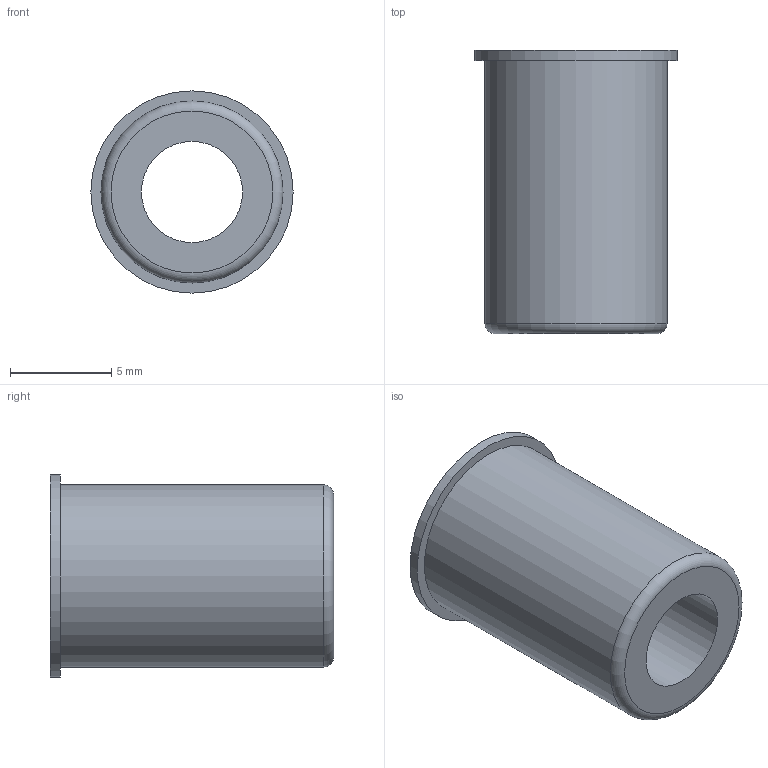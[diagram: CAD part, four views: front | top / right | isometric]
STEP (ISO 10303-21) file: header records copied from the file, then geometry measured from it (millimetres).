
FILE_DESCRIPTION (( 'STEP AP214' ), '1' );
FILE_NAME ('F10186.step', '2024-12-03T16:14:29', ( '' ), ( '' ), 'SwSTEP 2.0', 'SolidWorks 2023', '' );
FILE_SCHEMA (( 'AUTOMOTIVE_DESIGN' ));
Length unit declared in the file: millimetre
Products named in the file (1): F10186
Bounding box: 10 x 14 x 10 mm (x, y, z)
Volume: 621.7 mm3; surface area: 729 mm2
Topology: 1 solids, 1 shells, 7 faces, 12 edges, 8 vertices
Faces by surface type: plane 3, cylinder 3, torus 1
Full cylindrical faces by diameter (mm): 5 x1, 9 x1, 10 x1
Entity records: 171 total; most frequent: DIRECTION 30, CARTESIAN_POINT 22, AXIS2_PLACEMENT_3D 15, EDGE_LOOP 14, ORIENTED_EDGE 14, FACE_OUTER_BOUND 11, EDGE_CURVE 7, ADVANCED_FACE 7
